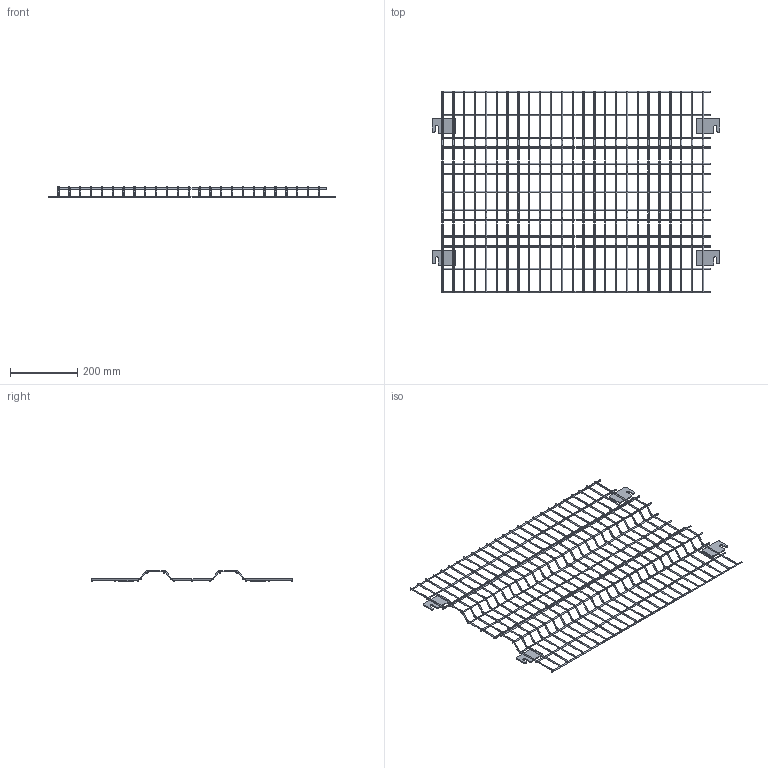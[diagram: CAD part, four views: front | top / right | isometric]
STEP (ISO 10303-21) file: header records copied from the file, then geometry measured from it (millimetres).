
FILE_DESCRIPTION (( 'STEP AP203' ), '1' );
FILE_NAME ('Frameless Panel 800 x 600.STEP', '2023-09-15T16:50:54', ( '' ), ( '' ), 'SwSTEP 2.0', 'SolidWorks 2023', '' );
FILE_SCHEMA (( 'CONFIG_CONTROL_DESIGN' ));
Length unit declared in the file: millimetre
Products named in the file (1): Frameless Panel 800 x 600
Bounding box: 856 x 600 x 32 mm (x, y, z)
Volume: 372636.5 mm3; surface area: 360048.4 mm2
Topology: 42 solids, 42 shells, 1066 faces, 2096 edges, 1114 vertices
Faces by surface type: cylinder 554, torus 400, plane 112
Entity records: 27053 total; most frequent: DIRECTION 5688, CARTESIAN_POINT 4277, ORIENTED_EDGE 4192, AXIS2_PLACEMENT_3D 2525, EDGE_CURVE 2096, CIRCLE 1458, VERTEX_POINT 1114, FACE_OUTER_BOUND 1066
